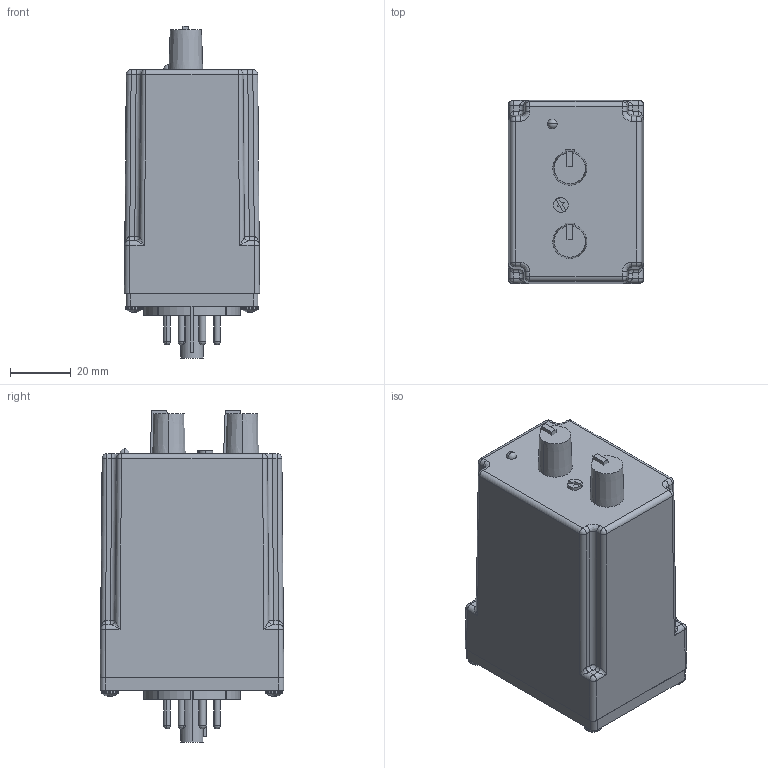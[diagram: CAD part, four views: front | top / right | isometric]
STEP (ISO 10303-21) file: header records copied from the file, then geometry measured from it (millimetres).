
FILE_DESCRIPTION (( 'STEP AP214' ), '1' );
FILE_NAME ('VLo-3Pot.STEP', '2019-05-21T03:10:28', ( '' ), ( '' ), 'SwSTEP 2.0', 'SolidWorks 2019', '' );
FILE_SCHEMA (( 'AUTOMOTIVE_DESIGN' ));
Length unit declared in the file: inch
Products named in the file (1): VLo-3Pot
Bounding box: 44.45 x 60.33 x 109.09 mm (x, y, z)
Volume: 203246.7 mm3; surface area: 30543 mm2
Topology: 19 solids, 19 shells, 714 faces, 1875 edges, 1195 vertices
Faces by surface type: cylinder 282, plane 244, bspline 114, cone 44, sphere 30
Entity records: 33128 total; most frequent: CARTESIAN_POINT 16649, ORIENTED_EDGE 3646, DIRECTION 2721, EDGE_CURVE 1823, VERTEX_POINT 1177, AXIS2_PLACEMENT_3D 949, LINE 823, VECTOR 823
